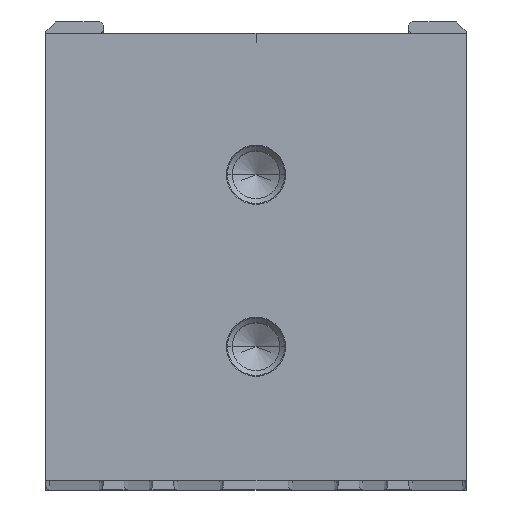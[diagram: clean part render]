
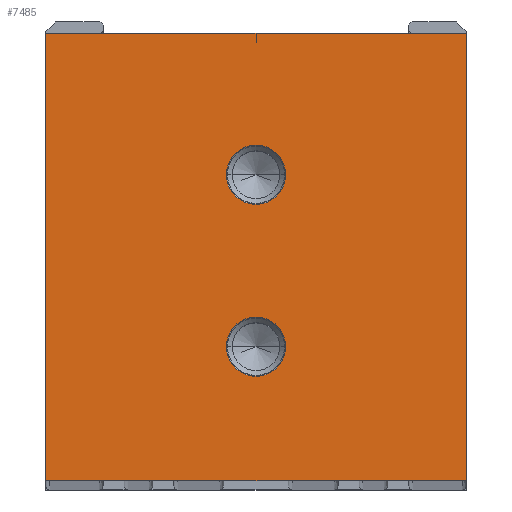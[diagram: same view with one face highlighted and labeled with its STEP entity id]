
A CAD part, top view. The second image highlights one B-rep face of the part: STEP entity #7485.
In plain terms, the highlighted planar face has unit normal (0, 0, 1).
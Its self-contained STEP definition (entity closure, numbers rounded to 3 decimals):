
#2601=DIRECTION('',(-1.,0.,0.));
#2602=VECTOR('',#2601,22.);
#2603=CARTESIAN_POINT('',(11.,11.402,137.5));
#2604=LINE('',#2603,#2602);
#2605=DIRECTION('',(0.,1.,0.));
#2606=VECTOR('',#2605,23.402);
#2607=CARTESIAN_POINT('',(11.,-11.999,137.5));
#2608=LINE('',#2607,#2606);
#2609=DIRECTION('',(1.,0.,0.));
#2610=VECTOR('',#2609,22.);
#2611=CARTESIAN_POINT('',(-11.,-12.007,137.5));
#2612=LINE('',#2611,#2610);
#2613=DIRECTION('',(0.,-1.,0.));
#2614=VECTOR('',#2613,23.409);
#2615=CARTESIAN_POINT('',(-11.,11.402,137.5));
#2616=LINE('',#2615,#2614);
#2617=CARTESIAN_POINT('',(0.,-4.996,137.5));
#2618=DIRECTION('',(0.,0.,-1.));
#2619=DIRECTION('',(-1.,0.,0.));
#2620=AXIS2_PLACEMENT_3D('',#2617,#2618,#2619);
#2622=CARTESIAN_POINT('',(0.,-4.996,137.5));
#2623=DIRECTION('',(0.,0.,-1.));
#2624=DIRECTION('',(1.,0.,0.));
#2625=AXIS2_PLACEMENT_3D('',#2622,#2623,#2624);
#2627=CARTESIAN_POINT('',(0.,4.004,137.5));
#2628=DIRECTION('',(0.,0.,-1.));
#2629=DIRECTION('',(-1.,0.,0.));
#2630=AXIS2_PLACEMENT_3D('',#2627,#2628,#2629);
#2632=CARTESIAN_POINT('',(0.,4.004,137.5));
#2633=DIRECTION('',(0.,0.,-1.));
#2634=DIRECTION('',(1.,0.,0.));
#2635=AXIS2_PLACEMENT_3D('',#2632,#2633,#2634);
#2961=CARTESIAN_POINT('',(-11.,11.402,137.5));
#2962=CARTESIAN_POINT('',(-11.,-12.007,137.5));
#2963=VERTEX_POINT('',#2961);
#2964=VERTEX_POINT('',#2962);
#2965=CARTESIAN_POINT('',(11.,-11.999,137.5));
#2966=VERTEX_POINT('',#2965);
#2967=CARTESIAN_POINT('',(11.,11.402,137.5));
#2968=VERTEX_POINT('',#2967);
#3767=CARTESIAN_POINT('',(-1.55,-4.996,
137.5));
#3768=CARTESIAN_POINT('',(1.55,-4.996,137.5));
#3769=VERTEX_POINT('',#3767);
#3770=VERTEX_POINT('',#3768);
#3775=CARTESIAN_POINT('',(-1.55,4.004,137.5));
#3776=CARTESIAN_POINT('',(1.55,4.004,137.5));
#3777=VERTEX_POINT('',#3775);
#3778=VERTEX_POINT('',#3776);
#7462=CARTESIAN_POINT('',(0.,0.,137.5));
#7463=DIRECTION('',(0.,0.,1.));
#7464=DIRECTION('',(1.,0.,0.));
#7465=AXIS2_PLACEMENT_3D('',#7462,#7463,#7464);
#7466=PLANE('',#7465);
#7467=ORIENTED_EDGE('',*,*,#3850,.F.);
#7468=ORIENTED_EDGE('',*,*,#3945,.F.);
#7469=ORIENTED_EDGE('',*,*,#4825,.F.);
#7470=ORIENTED_EDGE('',*,*,#4098,.F.);
#7471=EDGE_LOOP('',(#7467,#7468,#7469,#7470));
#7472=FACE_OUTER_BOUND('',#7471,.F.);
#7474=ORIENTED_EDGE('',*,*,#7473,.F.);
#7476=ORIENTED_EDGE('',*,*,#7475,.F.);
#7477=EDGE_LOOP('',(#7474,#7476));
#7478=FACE_BOUND('',#7477,.F.);
#7480=ORIENTED_EDGE('',*,*,#7479,.F.);
#7482=ORIENTED_EDGE('',*,*,#7481,.F.);
#7483=EDGE_LOOP('',(#7480,#7482));
#7484=FACE_BOUND('',#7483,.F.);
#2621=CIRCLE('',#2620,1.55);
#2626=CIRCLE('',#2625,1.55);
#2631=CIRCLE('',#2630,1.55);
#2636=CIRCLE('',#2635,1.55);
#3850=EDGE_CURVE('',#2968,#2963,#2604,.T.);
#3945=EDGE_CURVE('',#2966,#2968,#2608,.T.);
#4098=EDGE_CURVE('',#2963,#2964,#2616,.T.);
#4825=EDGE_CURVE('',#2964,#2966,#2612,.T.);
#7473=EDGE_CURVE('',#3769,#3770,#2621,.T.);
#7475=EDGE_CURVE('',#3770,#3769,#2626,.T.);
#7479=EDGE_CURVE('',#3777,#3778,#2631,.T.);
#7481=EDGE_CURVE('',#3778,#3777,#2636,.T.);
#7485=ADVANCED_FACE('',(#7472,#7478,#7484),#7466,.T.);
